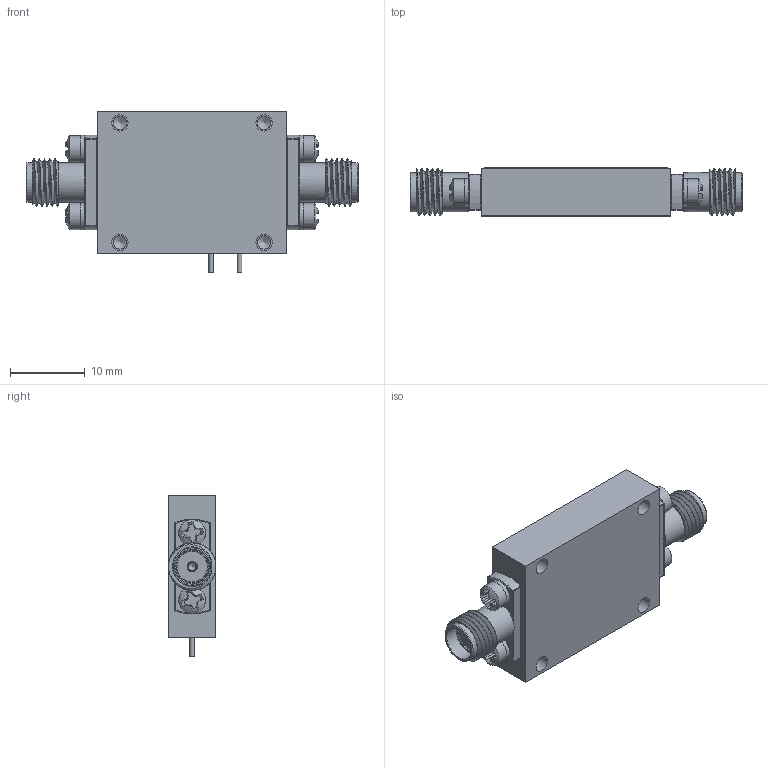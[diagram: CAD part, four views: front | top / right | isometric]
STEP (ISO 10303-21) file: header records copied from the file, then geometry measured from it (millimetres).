
FILE_DESCRIPTION (( 'STEP AP214' ), '1' );
FILE_NAME ('PEC-43-9G9D6G-15-SFF-HERM.STEP', '2026-09-09T15:20:04', ( '' ), ( '' ), 'SwSTEP 2.0', 'SolidWorks 2025', '' );
FILE_SCHEMA (( 'AUTOMOTIVE_DESIGN' ));
Length unit declared in the file: inch
Products named in the file (1): PEC-43-9G9D6G-15-SFF-HERM
Bounding box: 44.45 x 6.4 x 21.56 mm (x, y, z)
Volume: 3560.1 mm3; surface area: 4004.2 mm2
Topology: 18 solids, 18 shells, 499 faces, 1822 edges, 1504 vertices
Faces by surface type: plane 289, cylinder 96, torus 58, cone 32, sphere 20, bspline 4
Full cylindrical faces by diameter (mm): 0.305 x2, 0.559 x2, 0.635 x4, 0.711 x2, 1.016 x2, 1.27 x2, 1.295 x2, 1.778 x8, 1.93 x2, 2.057 x4, 2.184 x12, 2.591 x4, 2.896 x2, 3.175 x2, 3.302 x2, 3.556 x4, 4.191 x4, 4.597 x2, 5.283 x4
Entity records: 30776 total; most frequent: CARTESIAN_POINT 9020, ORIENTED_EDGE 3304, DIRECTION 2795, EDGE_CURVE 1652, VERTEX_POINT 1482, AXIS2_PLACEMENT_3D 973, VECTOR 849, LINE 849
